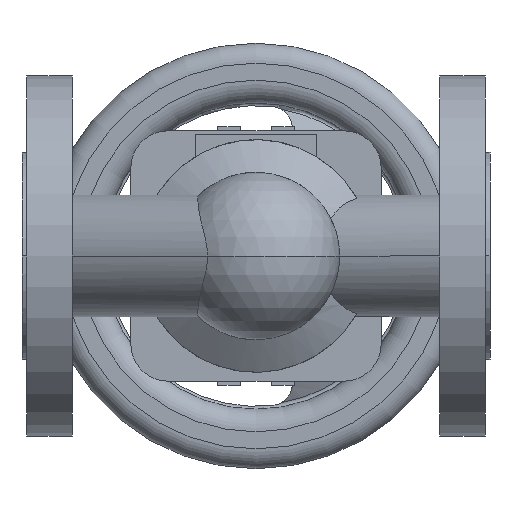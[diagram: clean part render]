
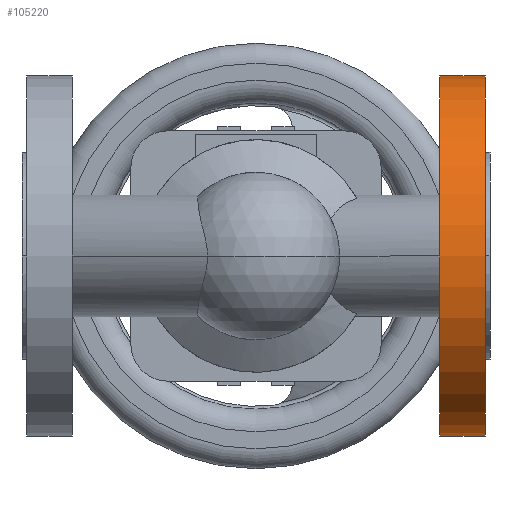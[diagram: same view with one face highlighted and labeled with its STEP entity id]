
A CAD part, front view. The second image highlights one B-rep face of the part: STEP entity #105220.
In plain terms, the highlighted cylindrical face has radius 63.5 mm (diameter 127 mm), a partial arc.
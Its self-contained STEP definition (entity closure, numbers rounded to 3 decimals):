
#8140=CARTESIAN_POINT('',(147.2,0.,0.));
#8150=DIRECTION('',(-1.,0.,0.));
#8160=DIRECTION('',(0.,0.,-1.));
#8170=AXIS2_PLACEMENT_3D('',#8140,#8150,#8160);
#8180=CYLINDRICAL_SURFACE('',#8170,63.5);
#8190=CARTESIAN_POINT('',(147.2,0.,63.5));
#8200=DIRECTION('',(-1.,0.,0.));
#8210=VECTOR('',#8200,1.);
#8220=LINE('',#8190,#8210);
#8230=CARTESIAN_POINT('',(163.4,0.,63.5));
#8240=VERTEX_POINT('',#8230);
#8250=CARTESIAN_POINT('',(147.2,0.,63.5));
#8260=VERTEX_POINT('',#8250);
#8270=EDGE_CURVE('',#8240,#8260,#8220,.T.);
#8290=CARTESIAN_POINT('',(147.2,0.,0.));
#8300=DIRECTION('',(1.,0.,0.));
#8310=DIRECTION('',(0.,0.,-1.));
#8320=AXIS2_PLACEMENT_3D('',#8290,#8300,#8310);
#8330=CIRCLE('',#8320,63.5);
#8340=CARTESIAN_POINT('',(147.2,0.,-63.5));
#8350=VERTEX_POINT('',#8340);
#8380=CARTESIAN_POINT('',(147.2,0.,-63.5));
#8390=DIRECTION('',(-1.,0.,0.));
#8400=VECTOR('',#8390,1.);
#8410=LINE('',#8380,#8400);
#8420=CARTESIAN_POINT('',(163.4,0.,-63.5));
#8430=VERTEX_POINT('',#8420);
#8440=EDGE_CURVE('',#8430,#8350,#8410,.T.);
#8460=CARTESIAN_POINT('',(163.4,0.,0.));
#8470=DIRECTION('',(-1.,0.,0.));
#8480=DIRECTION('',(0.,0.,-1.));
#8490=AXIS2_PLACEMENT_3D('',#8460,#8470,#8480);
#8500=CIRCLE('',#8490,63.5);
#11620=EDGE_CURVE('',#8430,#8240,#8500,.T.);
#13380=EDGE_CURVE('',#8260,#8350,#8330,.T.);
#105160=ORIENTED_EDGE('',*,*,#11620,.T.);
#105170=ORIENTED_EDGE('',*,*,#8440,.F.);
#105180=ORIENTED_EDGE('',*,*,#13380,.T.);
#105190=ORIENTED_EDGE('',*,*,#8270,.T.);
#105200=EDGE_LOOP('',(#105190,#105180,#105170,#105160));
#105210=FACE_OUTER_BOUND('',#105200,.T.);
#105220=ADVANCED_FACE('',(#105210),#8180,.T.);
